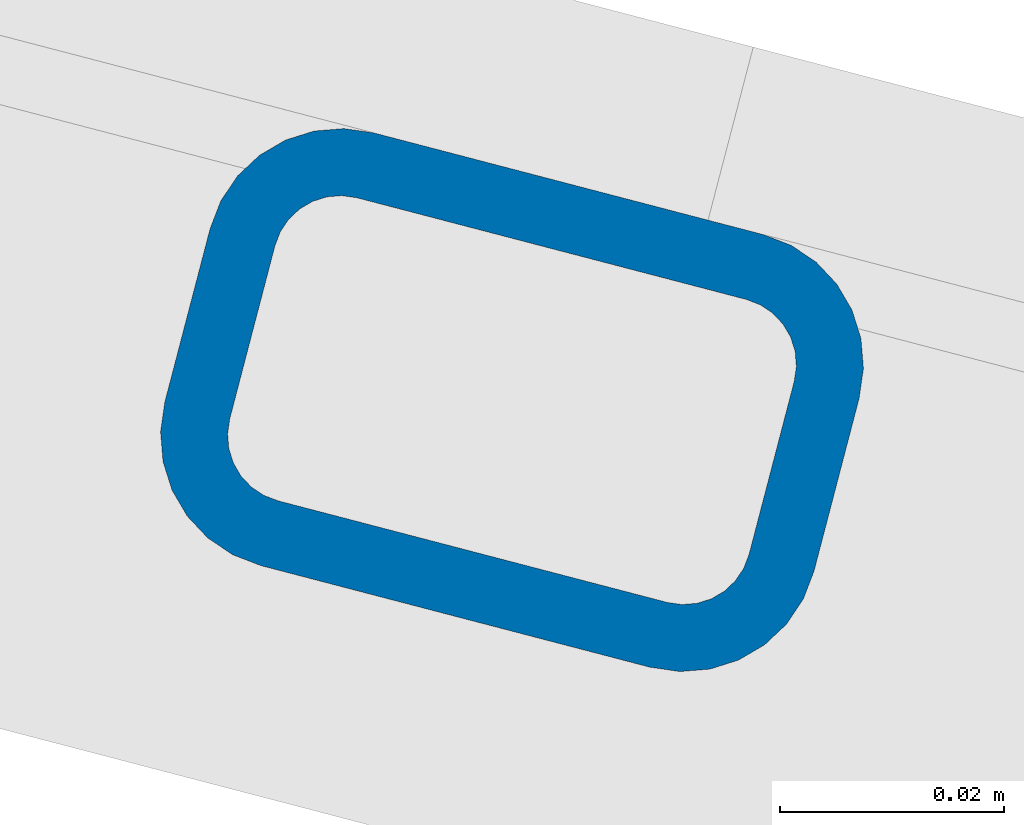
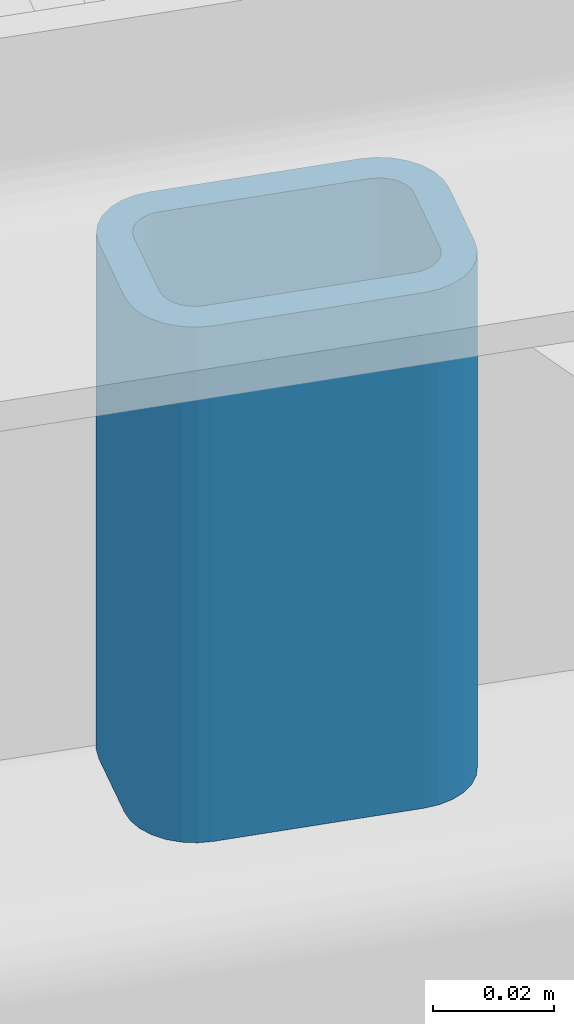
# One storey, part 7 of 169: 1 column, 1 element without a shape of its own.
"""IFC2X3 building model written with IfcOpenShell, lengths in millimetres."""

from ifc_helpers import new_model, si_unit, frame, origin_with_axes, origin_2d_with_axis, place, context, subcontext, project, spatial, hollow_rectangle, extrude, material, type_object, element, aggregate, save


model = new_model("IFC2X3")

# Units and contexts
model_context = context("Model", 3, precision=1e-05, world=origin_with_axes())
body_context = subcontext(model_context, "Body", "Model", "MODEL_VIEW")
ifc_project = project(units=[si_unit("LENGTHUNIT", "METRE", prefix="MILLI"), si_unit("AREAUNIT", "SQUARE_METRE"), si_unit("VOLUMEUNIT", "CUBIC_METRE"), si_unit("MASSUNIT", "GRAM", prefix="KILO"), si_unit("TIMEUNIT", "SECOND"), si_unit("PLANEANGLEUNIT", "RADIAN"), si_unit("SOLIDANGLEUNIT", "STERADIAN"), si_unit("THERMODYNAMICTEMPERATUREUNIT", "DEGREE_CELSIUS"), si_unit("LUMINOUSINTENSITYUNIT", "LUMEN")], contexts=[model_context])

# Site, building, storey
site_placement = place(None, origin_with_axes())
site = spatial("IfcSite", under=ifc_project, at=site_placement, Name="Undefined", CompositionType="ELEMENT")
building_placement = place(site_placement, origin_with_axes())
building = spatial("IfcBuilding", under=site, at=building_placement, Name="Undefined", CompositionType="ELEMENT")
storey_placement = place(building_placement, origin_with_axes())
storey = spatial("IfcBuildingStorey", under=building, at=storey_placement, Name="Undefined", CompositionType="ELEMENT", Elevation=0.0)

# Assembly, column
assembly_placement = place(storey_placement, origin_with_axes())
assembly = element("IfcElementAssembly", 1, at=assembly_placement, inside=storey, Name="Steel Assembly", AssemblyPlace="NOTDEFINED", PredefinedType="RIGID_FRAME")
ifc_material = material(Name="STEEL/S235")
column_type = type_object("IfcColumnType", Name="RHS60*40*6", PredefinedType="NOTDEFINED")
column_placement = place(assembly_placement, frame((-9473.20423443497, 17713.9854214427, 13880.4804586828), z_axis=(0.0, 0.0, 1.0), x_axis=(0.967563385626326, -0.252628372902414, 0.0)))
column = element("IfcColumn", 2, at=column_placement, type_object=column_type, material=ifc_material, Name="BEAM", ObjectType="RHS60*40*6", context=body_context, shape_type="SweptSolid", body=[
    extrude(hollow_rectangle(XDim=40.0, YDim=60.0, WallThickness=6.0, InnerFilletRadius=6.0, OuterFilletRadius=12.0, at=origin_2d_with_axis()), frame((0.0, 0.0, 103.914395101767), z_axis=(-2.54700353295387e-10, 0.0, -1.0), x_axis=(0.0, 1.0, 0.0)), (0.0, 0.0, 1.0), 103.91),
])
aggregate(assembly, [column])

save(model, "model.ifc")
